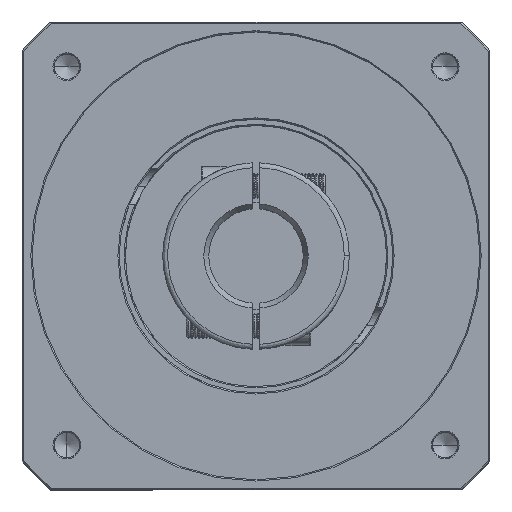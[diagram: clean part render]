
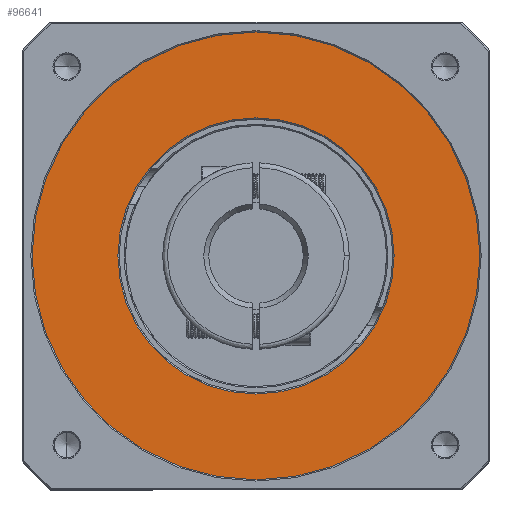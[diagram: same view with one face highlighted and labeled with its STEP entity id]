
A CAD part, top view. The second image highlights one B-rep face of the part: STEP entity #96641.
In plain terms, the highlighted planar face has unit normal (0, 0, 1).
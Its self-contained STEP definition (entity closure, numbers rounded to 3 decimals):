
#5866 = EDGE_LOOP ( 'NONE', ( #29784, #43209 ) ) ;
#11118 = AXIS2_PLACEMENT_3D ( 'NONE', #124936, #63894, #115581 ) ;
#17839 = EDGE_CURVE ( 'NONE', #91449, #44282, #46149, .T. ) ;
#20783 = ORIENTED_EDGE ( 'NONE', *, *, #71059, .T. ) ;
#27728 = CARTESIAN_POINT ( 'NONE',  ( -39.775, 85.977, -9.231 ) ) ;
#29784 = ORIENTED_EDGE ( 'NONE', *, *, #17839, .T. ) ;
#30698 = AXIS2_PLACEMENT_3D ( 'NONE', #52130, #101298, #60237 ) ;
#31568 = EDGE_CURVE ( 'NONE', #44282, #91449, #92455, .T. ) ;
#34148 = AXIS2_PLACEMENT_3D ( 'NONE', #56194, #36562, #128022 ) ;
#36562 = DIRECTION ( 'NONE',  ( 0., 0., -1. ) ) ;
#39087 = FACE_OUTER_BOUND ( 'NONE', #68741, .T. ) ;
#43209 = ORIENTED_EDGE ( 'NONE', *, *, #31568, .T. ) ;
#44242 = CARTESIAN_POINT ( 'NONE',  ( -95.275, 85.977, -9.231 ) ) ;
#44282 = VERTEX_POINT ( 'NONE', #44242 ) ;
#46149 = CIRCLE ( 'NONE', #30698, 55.5 ) ;
#46508 = VERTEX_POINT ( 'NONE', #111444 ) ;
#48570 = DIRECTION ( 'NONE',  ( 1., 0., 0. ) ) ;
#52130 = CARTESIAN_POINT ( 'NONE',  ( -39.775, 85.977, -9.231 ) ) ;
#56194 = CARTESIAN_POINT ( 'NONE',  ( -39.775, 85.977, -9.231 ) ) ;
#57185 = AXIS2_PLACEMENT_3D ( 'NONE', #116793, #77103, #65076 ) ;
#58041 = CARTESIAN_POINT ( 'NONE',  ( -129.775, 85.977, -9.231 ) ) ;
#60237 = DIRECTION ( 'NONE',  ( 1., 0., 0. ) ) ;
#63894 = DIRECTION ( 'NONE',  ( 0., 0., 1. ) ) ;
#65076 = DIRECTION ( 'NONE',  ( 1., 0., 0. ) ) ;
#67551 = CARTESIAN_POINT ( 'NONE',  ( 15.725, 85.977, -9.231 ) ) ;
#68741 = EDGE_LOOP ( 'NONE', ( #20783, #97740 ) ) ;
#71059 = EDGE_CURVE ( 'NONE', #46508, #110302, #129825, .T. ) ;
#76183 = AXIS2_PLACEMENT_3D ( 'NONE', #27728, #99545, #48570 ) ;
#77103 = DIRECTION ( 'NONE',  ( 0., 0., 1. ) ) ;
#78985 = EDGE_CURVE ( 'NONE', #110302, #46508, #116279, .T. ) ;
#91449 = VERTEX_POINT ( 'NONE', #67551 ) ;
#92455 = CIRCLE ( 'NONE', #34148, 55.5 ) ;
#95954 = PLANE ( 'NONE',  #57185 ) ;
#96641 = ADVANCED_FACE ( 'NONE', ( #120471, #39087 ), #95954, .T. ) ;
#97740 = ORIENTED_EDGE ( 'NONE', *, *, #78985, .T. ) ;
#99545 = DIRECTION ( 'NONE',  ( 0., 0., 1. ) ) ;
#101298 = DIRECTION ( 'NONE',  ( 0., 0., -1. ) ) ;
#110302 = VERTEX_POINT ( 'NONE', #58041 ) ;
#111444 = CARTESIAN_POINT ( 'NONE',  ( 50.225, 85.977, -9.231 ) ) ;
#115581 = DIRECTION ( 'NONE',  ( 1., 0., 0. ) ) ;
#116279 = CIRCLE ( 'NONE', #76183, 90. ) ;
#116793 = CARTESIAN_POINT ( 'NONE',  ( -39.775, 85.977, -9.231 ) ) ;
#120471 = FACE_BOUND ( 'NONE', #5866, .T. ) ;
#124936 = CARTESIAN_POINT ( 'NONE',  ( -39.775, 85.977, -9.231 ) ) ;
#128022 = DIRECTION ( 'NONE',  ( 1., 0., 0. ) ) ;
#129825 = CIRCLE ( 'NONE', #11118, 90. ) ;
